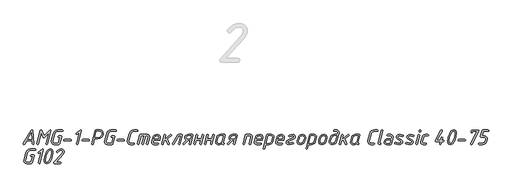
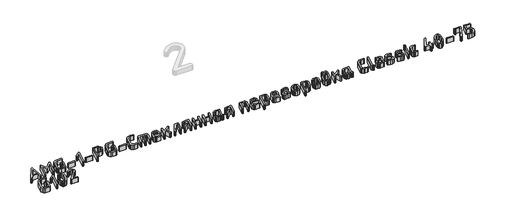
# One storey, part 15 of 22: 1 proxy.
"""IFC4 building model written with IfcOpenShell, lengths in millimetres."""

from ifc_helpers import new_model, si_unit, origin, origin_with_axes, place, context, project, spatial, polyline, outline, extrude, element, save

model = new_model("IFC4")

# Units and contexts
model_context = context("Model", 3, world=origin())
ifc_project = project(units=[si_unit("LENGTHUNIT", "METRE", prefix="MILLI")], contexts=[model_context])

# Site, building, storey
site = spatial("IfcSite", under=ifc_project)
building = spatial("IfcBuilding", under=site)
storey = spatial("IfcBuildingStorey", under=building, Name="Уровень 1", Elevation=0.0)

# Proxy
placement = place(None, origin())
element("IfcBuildingElementProxy", 1, Name="30", ObjectType="30", at=placement, inside=storey, context=model_context, shape_type="SweptSolid", body=[
    extrude(outline(polyline([(-36154.4219264, -9895.2113625), (-36210.5539274, -9895.2113625), (-36231.3287604, -9929.8494015), (-36237.7210168, -9933.5649005), (-36243.0345798, -9931.3276108), (-36245.1919664, -9926.0140477), (-36244.0733215, -9922.0188875), (-36161.4534084, -9786.2633437), (-36154.9812489, -9782.7076511), (-36149.6277342, -9784.4455458), (-36147.4703477, -9789.6592298), (-36137.0429795, -9926.2537573), (-36138.9406806, -9931.7371147), (-36144.6337839, -9933.5649005), (-36149.9573349, -9931.7970421), (-36152.0248303, -9926.493467), (-36154.4219264, -9895.2113625)]), holes=[polyline([(-36155.5405713, -9879.8699473), (-36160.6543764, -9813.3904815), (-36201.3251073, -9879.8699473), (-36155.5405713, -9879.8699473)])]), origin_with_axes(), (0.0, 0.0, 1.0), 50.0),
    extrude(outline(polyline([(-36059.3371135, -9813.3505299), (-36089.9000891, -9927.9716762), (-36092.4370158, -9932.1665945), (-36097.0913775, -9933.5649005), (-36102.3649889, -9931.3276108), (-36104.6821818, -9926.2537573), (-36104.362569, -9923.976516), (-36068.0865143, -9788.3008754), (-36065.5595755, -9784.1059572), (-36060.9351776, -9782.7076511), (-36053.9036956, -9787.2621337), (-36029.8128796, -9844.5527311), (-35973.0816046, -9785.1047472), (-35967.7680415, -9782.7076511), (-35962.1348656, -9784.5654006), (-35960.2571403, -9790.1386491), (-35960.49685, -9792.2960356), (-35996.732953, -9927.9716762), (-35999.3198193, -9932.1665945), (-36003.8842898, -9933.5649005), (-36009.1778771, -9931.3276108), (-36011.5150458, -9926.2537573), (-36011.1554814, -9923.976516), (-35982.5101827, -9816.6665129), (-36027.0961706, -9863.1701777), (-36032.4097337, -9865.4074674), (-36039.2414576, -9860.8929364), (-36059.3371135, -9813.3505299)])), origin_with_axes(), (0.0, 0.0, 1.0), 50.0),
    extrude(outline(polyline([(-35842.6795754, -9798.0490663), (-35891.3406268, -9798.0490663), (-35904.0052846, -9800.8356905), (-35914.512556, -9809.1955633), (-35920.5452479, -9820.5817699), (-35940.7607585, -9895.6907818), (-35941.5597906, -9901.2840061), (-35936.3860581, -9913.5491479), (-35923.5016664, -9918.2234853), (-35884.6287576, -9918.2234853), (-35868.4883104, -9859.4147271), (-35882.2316615, -9859.4147271), (-35887.8648374, -9857.4970502), (-35889.7425627, -9851.7440195), (-35887.8648374, -9845.9909888), (-35882.2316615, -9844.0733119), (-35856.782491, -9844.0733119), (-35852.3478631, -9845.4316663), (-35850.8696539, -9849.5067298), (-35850.9895087, -9851.5442615), (-35871.1251161, -9926.0939509), (-35874.6108934, -9931.6971631), (-35880.9931618, -9933.5649005), (-35927.5767298, -9933.5649005), (-35941.7995002, -9929.4199218), (-35952.8261424, -9916.9849857), (-35957.0210606, -9902.1229897), (-35956.2220285, -9895.8505882), (-35936.1263727, -9820.4219634), (-35926.1784238, -9799.6471304), (-35909.5186057, -9786.9425209), (-35887.2256117, -9782.7076511), (-35842.6795754, -9782.7076511), (-35837.0763632, -9784.625328), (-35835.2086258, -9790.3783587), (-35837.0763632, -9796.1313894), (-35842.6795754, -9798.0490663)])), origin_with_axes(), (0.0, 0.0, 1.0), 50.0),
    extrude(outline(polyline([(-35758.9809691, -9895.2113625), (-35821.0657587, -9895.2113625), (-35826.6689709, -9893.2936856), (-35828.5367083, -9887.5406549), (-35826.6689709, -9881.7876242), (-35821.0657587, -9879.8699473), (-35758.9809691, -9879.8699473), (-35753.3777569, -9881.7876242), (-35751.5100195, -9887.5406549), (-35753.3777569, -9893.2936856), (-35758.9809691, -9895.2113625)])), origin_with_axes(), (0.0, 0.0, 1.0), 50.0),
    extrude(outline(polyline([(-35667.0123811, -9809.7948373), (-35688.4663914, -9826.294849), (-35694.0596157, -9827.7730582), (-35699.1134934, -9824.9964219), (-35700.5317752, -9819.3432702), (-35697.5753567, -9814.3493199), (-35658.5026899, -9785.2645536), (-35654.068062, -9782.7076511), (-35648.4348861, -9784.5654006), (-35646.5571608, -9790.1386491), (-35646.7968704, -9792.2960356), (-35683.0329735, -9927.9716762), (-35685.6198398, -9932.1665945), (-35690.1843103, -9933.5649005), (-35695.4778976, -9931.3276108), (-35697.8150663, -9926.2537573), (-35697.4555019, -9923.976516), (-35667.0123811, -9809.7948373)])), origin_with_axes(), (0.0, 0.0, 1.0), 50.0),
    extrude(outline(polyline([(-35572.3270842, -9895.2113625), (-35634.4118738, -9895.2113625), (-35640.015086, -9893.2936856), (-35641.8828234, -9887.5406549), (-35640.015086, -9881.7876242), (-35634.4118738, -9879.8699473), (-35572.3270842, -9879.8699473), (-35566.723872, -9881.7876242), (-35564.8561346, -9887.5406549), (-35566.723872, -9893.2936856), (-35572.3270842, -9895.2113625)])), origin_with_axes(), (0.0, 0.0, 1.0), 50.0),
    extrude(outline(polyline([(-35481.7168507, -9874.7561423), (-35512.7592455, -9874.7561423), (-35527.3815318, -9928.091531), (-35529.978386, -9932.1965582), (-35534.5728202, -9933.5649005), (-35539.8464317, -9931.3276108), (-35542.1636246, -9926.2537573), (-35541.8440118, -9923.976516), (-35506.1672311, -9790.2585039), (-35502.7114176, -9784.5953643), (-35496.2592338, -9782.7076511), (-35457.386325, -9782.7076511), (-35440.2570756, -9787.731565), (-35427.063059, -9802.8033069), (-35422.0691088, -9821.1810439), (-35422.948044, -9828.7318967), (-35434.9834641, -9853.3620594), (-35455.3487933, -9869.162918), (-35481.7168507, -9874.7561423)]), holes=[polyline([(-35477.6417873, -9859.4147271), (-35461.1917151, -9855.5194459), (-35446.8391021, -9843.8336023), (-35439.8575596, -9832.7769964), (-35437.5303788, -9821.1810439), (-35440.4768094, -9809.3653576), (-35449.3161014, -9801.085388), (-35461.6211948, -9798.0490663), (-35492.623638, -9798.0490663), (-35508.7640853, -9859.4147271), (-35477.6417873, -9859.4147271)])]), origin_with_axes(), (0.0, 0.0, 1.0), 50.0),
    extrude(outline(polyline([(-35295.5024334, -9798.0490663), (-35344.1634847, -9798.0490663), (-35356.8281426, -9800.8356905), (-35367.3354139, -9809.1955633), (-35373.3681058, -9820.5817699), (-35393.5836165, -9895.6907818), (-35394.3826485, -9901.2840061), (-35389.2089161, -9913.5491479), (-35376.3245244, -9918.2234853), (-35337.4516156, -9918.2234853), (-35321.3111683, -9859.4147271), (-35335.0545194, -9859.4147271), (-35340.6876953, -9857.4970502), (-35342.5654206, -9851.7440195), (-35340.6876953, -9845.9909888), (-35335.0545194, -9844.0733119), (-35309.6053489, -9844.0733119), (-35305.1707211, -9845.4316663), (-35303.6925118, -9849.5067298), (-35303.8123666, -9851.5442615), (-35323.9479741, -9926.0939509), (-35327.4337513, -9931.6971631), (-35333.8160198, -9933.5649005), (-35380.3995878, -9933.5649005), (-35394.6223581, -9929.4199218), (-35405.6490003, -9916.9849857), (-35409.8439185, -9902.1229897), (-35409.0448865, -9895.8505882), (-35388.9492306, -9820.4219634), (-35379.0012817, -9799.6471304), (-35362.3414637, -9786.9425209), (-35340.0484697, -9782.7076511), (-35295.5024334, -9782.7076511), (-35289.8992212, -9784.625328), (-35288.0314838, -9790.3783587), (-35289.8992212, -9796.1313894), (-35295.5024334, -9798.0490663)])), origin_with_axes(), (0.0, 0.0, 1.0), 50.0),
    extrude(outline(polyline([(-35211.803827, -9895.2113625), (-35273.8886167, -9895.2113625), (-35279.4918289, -9893.2936856), (-35281.3595662, -9887.5406549), (-35279.4918289, -9881.7876242), (-35273.8886167, -9879.8699473), (-35211.803827, -9879.8699473), (-35206.2006148, -9881.7876242), (-35204.3328774, -9887.5406549), (-35206.2006148, -9893.2936856), (-35211.803827, -9895.2113625)])), origin_with_axes(), (0.0, 0.0, 1.0), 50.0),
    extrude(outline(polyline([(-35047.2831297, -9834.4050242), (-35044.7262271, -9830.1501786), (-35040.0119381, -9828.7318967), (-34968.0591028, -9828.7318967), (-34955.8339125, -9831.7382547), (-34947.3641729, -9840.7573289), (-34944.3278511, -9852.6629063), (-34945.1268832, -9858.6955982), (-34963.7443297, -9928.0116278), (-34966.331196, -9932.1765824), (-34970.8956665, -9933.5649005), (-34976.1892538, -9931.3675624), (-34978.5264225, -9926.3336606), (-34978.1668581, -9924.0564192), (-34960.6680564, -9858.9752595), (-34959.8690243, -9853.4619384), (-34962.915334, -9846.4204685), (-34972.054263, -9844.0733119), (-34987.5954362, -9844.0733119), (-35010.3278978, -9928.0116278), (-35012.914764, -9932.1765824), (-35017.4792345, -9933.5649005), (-35022.7728218, -9931.3675624), (-35025.1099905, -9926.3336606), (-35024.7903777, -9924.0564192), (-35003.0567062, -9844.0733119), (-35034.2189558, -9844.0733119), (-35056.9114658, -9928.0116278), (-35059.5083199, -9932.1765824), (-35064.1027542, -9933.5649005), (-35069.3763656, -9931.3475866), (-35071.6935585, -9926.293709), (-35071.3739457, -9924.0164676), (-35047.2831297, -9834.4050242)])), origin_with_axes(), (0.0, 0.0, 1.0), 50.0),
    extrude(outline(polyline([(-35112.004725, -9918.2234853), (-35106.3715492, -9920.1411622), (-35104.4938239, -9925.8941929), (-35106.3715492, -9931.6472236), (-35112.004725, -9933.5649005), (-35145.0447, -9933.5649005), (-35159.397313, -9929.3899581), (-35170.4139673, -9916.8651309), (-35174.4890307, -9901.9232317), (-35173.6899987, -9895.8505882), (-35153.7141976, -9820.4219634), (-35146.8924616, -9803.9219518), (-35136.4551055, -9792.1362292), (-35122.4021295, -9785.0647956), (-35104.7335335, -9782.7076511), (-35075.8485252, -9782.7076511), (-35070.2153493, -9784.625328), (-35068.337624, -9790.3783587), (-35070.2153493, -9796.1313894), (-35075.8485252, -9798.0490663), (-35108.8085969, -9798.0490663), (-35121.3533999, -9800.8356905), (-35131.9805261, -9809.1955633), (-35138.1330728, -9820.5817699), (-35158.2287286, -9895.6907818), (-35159.0277607, -9901.2840061), (-35153.8540282, -9913.5491479), (-35140.9696366, -9918.2234853), (-35112.004725, -9918.2234853)])), origin_with_axes(), (0.0, 0.0, 1.0), 50.0),
    extrude(outline(polyline([(-34837.5372188, -9865.4873706), (-34843.5699107, -9887.5406549), (-34905.6147487, -9887.5406549), (-34909.6099089, -9902.8820701), (-34910.408941, -9908.4752944), (-34907.3626313, -9915.7864376), (-34898.2237023, -9918.2234853), (-34861.4282768, -9918.2234853), (-34855.7951009, -9920.1411622), (-34853.9173756, -9925.8941929), (-34855.7951009, -9931.6472236), (-34861.4282768, -9933.5649005), (-34902.2188625, -9933.5649005), (-34911.2778883, -9931.80703), (-34918.9585838, -9926.5334186), (-34924.2022316, -9918.8227594), (-34925.9501142, -9909.7537457), (-34925.1510821, -9903.601199), (-34915.1631816, -9866.1665478), (-34908.3064879, -9848.9274315), (-34898.4434361, -9837.4013943), (-34884.6950911, -9830.8992711), (-34866.1825175, -9828.7318967), (-34854.6614742, -9830.804386), (-34845.1080474, -9837.0218541), (-34838.6808334, -9846.2756439), (-34836.5384287, -9857.4570986), (-34837.5372188, -9865.4873706)]), holes=[polyline([(-34853.1183436, -9865.1677578), (-34851.8798439, -9857.3771954), (-34856.4742782, -9847.3992827), (-34870.2575809, -9844.0733119), (-34889.1946403, -9849.3469234), (-34895.4570539, -9855.9389377), (-34899.5820568, -9865.1677578), (-34901.6595401, -9872.1992397), (-34855.0360205, -9872.1992397), (-34853.1183436, -9865.1677578)])]), origin_with_axes(), (0.0, 0.0, 1.0), 50.0),
    extrude(outline(polyline([(-34778.9681701, -9885.2634136), (-34799.063826, -9900.7246836), (-34806.3350176, -9928.0116278), (-34808.8719443, -9932.1765824), (-34813.5263059, -9933.5649005), (-34818.7999174, -9931.3475866), (-34821.1171103, -9926.293709), (-34820.7974975, -9924.0164676), (-34796.7066815, -9834.2851694), (-34794.1797426, -9830.1202149), (-34789.5553447, -9828.7318967), (-34783.9221688, -9830.5796583), (-34782.0444435, -9836.1229431), (-34782.2442015, -9838.2803296), (-34792.5916664, -9876.9534804), (-34731.9051829, -9831.2887992), (-34727.3906519, -9828.7318967), (-34722.1370162, -9831.009138), (-34719.7598959, -9836.1229431), (-34722.8361692, -9842.2355382), (-34766.8228831, -9875.9147387), (-34744.6497439, -9922.777968), (-34743.8507119, -9925.9740961), (-34746.1279532, -9931.2876592), (-34751.4814679, -9933.5649005), (-34758.1533854, -9929.2501275), (-34778.9681701, -9885.2634136)])), origin_with_axes(), (0.0, 0.0, 1.0), 50.0),
    extrude(outline(polyline([(-34617.2041333, -9828.7318967), (-34611.5709574, -9830.5796583), (-34609.6932321, -9836.1229431), (-34609.9329417, -9838.2803296), (-34634.1436126, -9928.0116278), (-34636.7304788, -9932.1765824), (-34641.2949494, -9933.5649005), (-34646.5885367, -9931.3675624), (-34648.9257054, -9926.3336606), (-34648.566141, -9924.0564192), (-34626.9922758, -9844.0733119), (-34644.0116583, -9844.0733119), (-34697.1073375, -9930.0491595), (-34702.980223, -9933.5649005), (-34708.9130359, -9931.7770663), (-34710.9705434, -9926.4135638), (-34709.8119469, -9922.2186455), (-34654.7186877, -9832.3674925), (-34648.2065765, -9828.7318967), (-34617.2041333, -9828.7318967)])), origin_with_axes(), (0.0, 0.0, 1.0), 50.0),
    extrude(outline(polyline([(-34547.3687329, -9887.5406549), (-34588.2791734, -9931.2477076), (-34593.6326881, -9933.5649005), (-34599.2259124, -9931.707151), (-34601.2234925, -9926.1339025), (-34599.066106, -9920.5406783), (-34567.2646307, -9886.5019133), (-34579.4698452, -9878.0321736), (-34584.0842552, -9864.1290161), (-34583.405078, -9858.1362758), (-34577.8617932, -9844.4977976), (-34570.1011945, -9835.4637416), (-34559.2143829, -9830.4148579), (-34544.2924595, -9828.7318967), (-34507.497034, -9828.7318967), (-34502.2034467, -9830.8892832), (-34499.866278, -9836.0030883), (-34500.2258424, -9838.2803296), (-34524.3965617, -9928.0116278), (-34526.9934158, -9932.1765824), (-34531.5878501, -9933.5649005), (-34537.1910623, -9931.6771873), (-34539.0587997, -9926.0140477), (-34538.8590416, -9923.8167096), (-34529.3106088, -9887.5406549), (-34547.3687329, -9887.5406549)]), holes=[polyline([(-34556.3578434, -9872.1992397), (-34525.3154485, -9872.1992397), (-34517.1253701, -9844.0733119), (-34548.2876197, -9844.0733119), (-34560.7824833, -9847.5890529), (-34568.0636628, -9858.1362758), (-34568.74284, -9863.2500809), (-34565.6465908, -9869.96195), (-34556.3578434, -9872.1992397)])]), origin_with_axes(), (0.0, 0.0, 1.0), 50.0),
    extrude(outline(polyline([(-34419.3637998, -9887.5406549), (-34465.9473679, -9887.5406549), (-34476.4945908, -9927.8518214), (-34479.0614812, -9932.1366308), (-34483.805734, -9933.5649005), (-34489.0593697, -9931.3475866), (-34491.3965384, -9926.293709), (-34491.0769256, -9924.0164676), (-34466.9861095, -9834.2851694), (-34464.4491828, -9830.1202149), (-34459.7948211, -9828.7318967), (-34454.4812581, -9830.80938), (-34452.2040167, -9835.8832335), (-34452.4037748, -9837.9607168), (-34461.9522077, -9872.1992397), (-34415.2487848, -9872.1992397), (-34404.7015619, -9834.125363), (-34402.174623, -9830.0802632), (-34397.5502251, -9828.7318967), (-34391.9170492, -9830.5796583), (-34390.0393239, -9836.1229431), (-34390.2790335, -9838.2803296), (-34414.3698496, -9928.0116278), (-34416.8967884, -9932.1765824), (-34421.5211863, -9933.5649005), (-34426.7947978, -9931.307635), (-34429.1119907, -9926.1339025), (-34428.7923779, -9923.8167096), (-34419.3637998, -9887.5406549)])), origin_with_axes(), (0.0, 0.0, 1.0), 50.0),
    extrude(outline(polyline([(-34309.4169909, -9887.5406549), (-34356.0005589, -9887.5406549), (-34366.5477819, -9927.8518214), (-34369.1146723, -9932.1366308), (-34373.8589251, -9933.5649005), (-34379.1125607, -9931.3475866), (-34381.4497295, -9926.293709), (-34381.1301167, -9924.0164676), (-34357.0393006, -9834.2851694), (-34354.5023739, -9830.1202149), (-34349.8480122, -9828.7318967), (-34344.5344491, -9830.80938), (-34342.2572078, -9835.8832335), (-34342.4569658, -9837.9607168), (-34352.0053987, -9872.1992397), (-34305.3019759, -9872.1992397), (-34294.754753, -9834.125363), (-34292.2278141, -9830.0802632), (-34287.6034162, -9828.7318967), (-34281.9702403, -9830.5796583), (-34280.092515, -9836.1229431), (-34280.3322246, -9838.2803296), (-34304.4230407, -9928.0116278), (-34306.9499795, -9932.1765824), (-34311.5743774, -9933.5649005), (-34316.8479889, -9931.307635), (-34319.1651818, -9926.1339025), (-34318.845569, -9923.8167096), (-34309.4169909, -9887.5406549)])), origin_with_axes(), (0.0, 0.0, 1.0), 50.0),
    extrude(outline(polyline([(-34242.538009, -9933.5649005), (-34251.5970348, -9931.8369937), (-34259.2777303, -9926.6532734), (-34264.5213781, -9919.0225174), (-34266.2692607, -9909.9535037), (-34265.4702286, -9903.601199), (-34253.4447964, -9858.6955982), (-34247.8815358, -9844.7924407), (-34239.8213001, -9835.523669), (-34228.9544643, -9830.4298398), (-34214.332178, -9828.7318967), (-34175.4992208, -9828.7318967), (-34170.6051495, -9830.8693074), (-34169.6662869, -9836.2028463), (-34189.9217491, -9910.7525357), (-34190.2413619, -9912.7900674), (-34188.7431768, -9916.8651309), (-34184.2486216, -9918.2234853), (-34179.0449254, -9920.1411622), (-34178.4556393, -9925.8941929), (-34181.7915981, -9931.6472236), (-34188.2038302, -9933.5649005), (-34198.261646, -9931.3875382), (-34203.6651002, -9924.8554513), (-34212.8140171, -9931.3875382), (-34227.076739, -9933.5649005), (-34242.538009, -9933.5649005)]), holes=[polyline([(-34238.5428488, -9918.2234853), (-34223.0016756, -9918.2234853), (-34210.9962192, -9913.6690027), (-34203.3055358, -9903.401441), (-34187.2849434, -9844.0733119), (-34218.3273382, -9844.0733119), (-34231.0718992, -9847.778823), (-34237.9835264, -9858.8953562), (-34249.9290554, -9903.401441), (-34250.7280875, -9908.6750524), (-34247.6817778, -9915.8363771), (-34238.5428488, -9918.2234853)])]), origin_with_axes(), (0.0, 0.0, 1.0), 50.0),
    extrude(outline(polyline([(-34092.240082, -9887.5406549), (-34133.1505226, -9931.2477076), (-34138.5040372, -9933.5649005), (-34144.0972615, -9931.707151), (-34146.0948416, -9926.1339025), (-34143.9374551, -9920.5406783), (-34112.1359799, -9886.5019133), (-34124.3411943, -9878.0321736), (-34128.9556043, -9864.1290161), (-34128.2764271, -9858.1362758), (-34122.7331423, -9844.4977976), (-34114.9725436, -9835.4637416), (-34104.085732, -9830.4148579), (-34089.1638087, -9828.7318967), (-34052.3683832, -9828.7318967), (-34047.0747959, -9830.8892832), (-34044.7376272, -9836.0030883), (-34045.0971916, -9838.2803296), (-34069.2679108, -9928.0116278), (-34071.864765, -9932.1765824), (-34076.4591992, -9933.5649005), (-34082.0624114, -9931.6771873), (-34083.9301488, -9926.0140477), (-34083.7303908, -9923.8167096), (-34074.1819579, -9887.5406549), (-34092.240082, -9887.5406549)]), holes=[polyline([(-34101.2291925, -9872.1992397), (-34070.1867977, -9872.1992397), (-34061.9967193, -9844.0733119), (-34093.1589689, -9844.0733119), (-34105.6538324, -9847.5890529), (-34112.9350119, -9858.1362758), (-34113.6141891, -9863.2500809), (-34110.51794, -9869.96195), (-34101.2291925, -9872.1992397)])]), origin_with_axes(), (0.0, 0.0, 1.0), 50.0),
    extrude(outline(polyline([(-33960.5995532, -9834.4050242), (-33958.0426507, -9830.1501786), (-33953.3283616, -9828.7318967), (-33912.4179211, -9828.7318967), (-33903.0542643, -9830.4198519), (-33895.4185144, -9835.4837174), (-33890.339667, -9843.1244613), (-33888.6467178, -9852.5430515), (-33889.4457499, -9858.6955982), (-33908.1031481, -9928.0116278), (-33910.6700385, -9932.1765824), (-33915.2544848, -9933.5649005), (-33920.5280963, -9931.3675624), (-33922.8452892, -9926.3336606), (-33922.5256764, -9924.0564192), (-33905.0268747, -9858.9752595), (-33904.2278427, -9853.5817932), (-33907.2641644, -9846.4504322), (-33916.3731297, -9844.0733119), (-33947.5353793, -9844.0733119), (-33970.2278893, -9928.0116278), (-33972.8247434, -9932.1765824), (-33977.4191777, -9933.5649005), (-33982.6927891, -9931.3475866), (-33985.0099821, -9926.293709), (-33984.6903692, -9924.0164676), (-33960.5995532, -9834.4050242)])), origin_with_axes(), (0.0, 0.0, 1.0), 50.0),
    extrude(outline(polyline([(-33781.5364727, -9865.4873706), (-33787.5691646, -9887.5406549), (-33849.6140026, -9887.5406549), (-33853.6091628, -9902.8820701), (-33854.4081949, -9908.4752944), (-33851.3618852, -9915.7864376), (-33842.2229562, -9918.2234853), (-33805.4275307, -9918.2234853), (-33799.7943548, -9920.1411622), (-33797.9166295, -9925.8941929), (-33799.7943548, -9931.6472236), (-33805.4275307, -9933.5649005), (-33846.2181164, -9933.5649005), (-33855.2771422, -9931.80703), (-33862.9578377, -9926.5334186), (-33868.2014855, -9918.8227594), (-33869.9493681, -9909.7537457), (-33869.150336, -9903.601199), (-33859.1624355, -9866.1665478), (-33852.3057418, -9848.9274315), (-33842.44269, -9837.4013943), (-33828.694345, -9830.8992711), (-33810.1817714, -9828.7318967), (-33798.6607281, -9830.804386), (-33789.1073013, -9837.0218541), (-33782.6800873, -9846.2756439), (-33780.5376826, -9857.4570986), (-33781.5364727, -9865.4873706)]), holes=[polyline([(-33797.1175975, -9865.1677578), (-33795.8790978, -9857.3771954), (-33800.4735321, -9847.3992827), (-33814.2568348, -9844.0733119), (-33833.1938942, -9849.3469234), (-33839.4563078, -9855.9389377), (-33843.5813107, -9865.1677578), (-33845.658794, -9872.1992397), (-33799.0352744, -9872.1992397), (-33797.1175975, -9865.1677578)])]), origin_with_axes(), (0.0, 0.0, 1.0), 50.0),
    extrude(outline(polyline([(-33740.7059354, -9834.4449758), (-33738.1490328, -9830.1601665), (-33733.4347438, -9828.7318967), (-33692.5243033, -9828.7318967), (-33683.3604045, -9830.4747853), (-33675.684703, -9835.7034512), (-33670.4860008, -9843.3991286), (-33668.7531, -9852.5430515), (-33669.5521321, -9858.6955982), (-33681.6175159, -9903.601199), (-33687.1657946, -9917.4344412), (-33695.1810848, -9926.6532734), (-33706.2127209, -9931.8369937), (-33720.8100375, -9933.5649005), (-33751.8124807, -9933.5649005), (-33762.3996553, -9973.876067), (-33764.9265941, -9978.1608763), (-33769.5509921, -9979.5891461), (-33774.8445793, -9977.3518564), (-33777.1817481, -9972.2780029), (-33776.8221836, -9970.0007616), (-33740.7059354, -9834.4449758)]), holes=[polyline([(-33727.6417615, -9844.0733119), (-33747.8572721, -9918.2234853), (-33716.7349741, -9918.2234853), (-33703.9604493, -9914.5179742), (-33697.0388343, -9903.401441), (-33685.1332569, -9858.8953562), (-33684.3342248, -9853.50189), (-33687.3705466, -9846.4304564), (-33696.4795119, -9844.0733119), (-33727.6417615, -9844.0733119)])]), origin_with_axes(), (0.0, 0.0, 1.0), 50.0),
    extrude(outline(polyline([(-33561.6428548, -9865.4873706), (-33567.6755468, -9887.5406549), (-33629.7203848, -9887.5406549), (-33633.715545, -9902.8820701), (-33634.514577, -9908.4752944), (-33631.4682674, -9915.7864376), (-33622.3293384, -9918.2234853), (-33585.5339129, -9918.2234853), (-33579.900737, -9920.1411622), (-33578.0230117, -9925.8941929), (-33579.900737, -9931.6472236), (-33585.5339129, -9933.5649005), (-33626.3244986, -9933.5649005), (-33635.3835244, -9931.80703), (-33643.0642199, -9926.5334186), (-33648.3078677, -9918.8227594), (-33650.0557502, -9909.7537457), (-33649.2567182, -9903.601199), (-33639.2688177, -9866.1665478), (-33632.412124, -9848.9274315), (-33622.5490722, -9837.4013943), (-33608.8007272, -9830.8992711), (-33590.2881535, -9828.7318967), (-33578.7671103, -9830.804386), (-33569.2136834, -9837.0218541), (-33562.7864695, -9846.2756439), (-33560.6440648, -9857.4570986), (-33561.6428548, -9865.4873706)]), holes=[polyline([(-33577.2239797, -9865.1677578), (-33575.98548, -9857.3771954), (-33580.5799142, -9847.3992827), (-33594.363217, -9844.0733119), (-33613.3002763, -9849.3469234), (-33619.56269, -9855.9389377), (-33623.6876929, -9865.1677578), (-33625.7651762, -9872.1992397), (-33579.1416566, -9872.1992397), (-33577.2239797, -9865.1677578)])]), origin_with_axes(), (0.0, 0.0, 1.0), 50.0),
    extrude(outline(polyline([(-33489.0907455, -9930.6484336), (-33520.2130435, -9933.5649005), (-33528.1434365, -9931.9668364), (-33534.8353299, -9927.1726442), (-33539.3898125, -9920.261017), (-33540.9079734, -9912.3106482), (-33539.2100303, -9903.1517434), (-33534.116201, -9894.3723789), (-33518.5350762, -9882.7065111), (-33473.1900079, -9864.9679998), (-33465.9387921, -9859.7742915), (-33463.5217201, -9851.6241647), (-33465.8289252, -9845.9610251), (-33472.7505402, -9844.0733119), (-33490.6588459, -9845.6913518), (-33504.1924511, -9850.5454714), (-33507.8280469, -9851.5842131), (-33513.1216341, -9849.3069717), (-33515.338948, -9844.0733119), (-33511.5834974, -9837.4413459), (-33493.5453491, -9830.909259), (-33468.75538, -9828.7318967), (-33458.6476247, -9831.4985451), (-33451.0168687, -9839.7984905), (-33448.0604501, -9850.3057618), (-33450.5074858, -9860.823021), (-33457.8485927, -9871.1205465), (-33470.2335893, -9879.3505765), (-33515.5786577, -9896.969233), (-33522.8898008, -9902.2528324), (-33525.3268486, -9910.4329229), (-33523.0595951, -9916.2758447), (-33516.2578349, -9918.2234853), (-33494.663994, -9916.4855906), (-33475.1076848, -9911.2719066), (-33472.3909758, -9910.7125841), (-33466.7577999, -9912.5903094), (-33464.8800746, -9918.2234853), (-33467.3271102, -9923.477121), (-33474.6682171, -9927.4123538), (-33489.0907455, -9930.6484336)])), origin_with_axes(), (0.0, 0.0, 1.0), 50.0),
    extrude(outline(polyline([(-33427.3255687, -9896.1302494), (-33419.3751999, -9866.1665478), (-33412.5185061, -9848.9274315), (-33402.6554544, -9837.4013943), (-33388.9071093, -9830.8992711), (-33370.3945357, -9828.7318967), (-33358.8734925, -9830.8443376), (-33349.3200656, -9837.1816605), (-33342.8928516, -9846.6152326), (-33340.750447, -9858.016421), (-33341.749237, -9866.1665478), (-33349.6996058, -9896.1302494), (-33359.6076031, -9917.6641629), (-33375.2286796, -9929.5897161), (-33398.68027, -9933.5649005), (-33410.2063072, -9931.4524596), (-33419.7747159, -9925.1151367), (-33426.2169117, -9915.6815646), (-33428.3643103, -9904.2803762), (-33427.3255687, -9896.1302494)]), holes=[polyline([(-33365.2807306, -9895.970443), (-33357.3303618, -9866.3263542), (-33356.0918622, -9858.016421), (-33360.6862964, -9847.5590892), (-33374.4695991, -9844.0733119), (-33385.0517797, -9845.464127), (-33393.4665859, -9849.6365725), (-33399.7140177, -9856.5906482), (-33403.794075, -9866.3263542), (-33411.8642987, -9895.970443), (-33413.1427499, -9904.2803762), (-33408.5383278, -9914.737708), (-33394.7250614, -9918.2234853), (-33384.1054261, -9916.8326702), (-33375.6581593, -9912.6602247), (-33369.3832608, -9905.706149), (-33365.2807306, -9895.970443)])]), origin_with_axes(), (0.0, 0.0, 1.0), 50.0),
    extrude(outline(polyline([(-33300.9186997, -9834.4449758), (-33298.3617972, -9830.1601665), (-33293.6475081, -9828.7318967), (-33252.7370676, -9828.7318967), (-33243.5731689, -9830.4747853), (-33235.8974673, -9835.7034512), (-33230.6987651, -9843.3991286), (-33228.9658644, -9852.5430515), (-33229.7648964, -9858.6955982), (-33241.8302802, -9903.601199), (-33247.378559, -9917.4344412), (-33255.3938491, -9926.6532734), (-33266.4254853, -9931.8369937), (-33281.0228019, -9933.5649005), (-33312.0252451, -9933.5649005), (-33322.6124196, -9973.876067), (-33325.1393585, -9978.1608763), (-33329.7637564, -9979.5891461), (-33335.0573437, -9977.3518564), (-33337.3945124, -9972.2780029), (-33337.034948, -9970.0007616), (-33300.9186997, -9834.4449758)]), holes=[polyline([(-33287.8545258, -9844.0733119), (-33308.0700365, -9918.2234853), (-33276.9477384, -9918.2234853), (-33264.1732137, -9914.5179742), (-33257.2515986, -9903.401441), (-33245.3460212, -9858.8953562), (-33244.5469892, -9853.50189), (-33247.5833109, -9846.4304564), (-33256.6922762, -9844.0733119), (-33287.8545258, -9844.0733119)])]), origin_with_axes(), (0.0, 0.0, 1.0), 50.0),
    extrude(outline(polyline([(-33207.4319508, -9896.1302494), (-33199.481582, -9866.1665478), (-33192.6248883, -9848.9274315), (-33182.7618366, -9837.4013943), (-33169.0134915, -9830.8992711), (-33150.5009179, -9828.7318967), (-33138.9798746, -9830.8443376), (-33129.4264478, -9837.1816605), (-33122.9992338, -9846.6152326), (-33120.8568291, -9858.016421), (-33121.8556192, -9866.1665478), (-33129.805988, -9896.1302494), (-33139.7139853, -9917.6641629), (-33155.3350617, -9929.5897161), (-33178.7866521, -9933.5649005), (-33190.3126893, -9931.4524596), (-33199.881098, -9925.1151367), (-33206.3232939, -9915.6815646), (-33208.4706925, -9904.2803762), (-33207.4319508, -9896.1302494)]), holes=[polyline([(-33145.3871128, -9895.970443), (-33137.436744, -9866.3263542), (-33136.1982443, -9858.016421), (-33140.7926786, -9847.5590892), (-33154.5759813, -9844.0733119), (-33165.1581619, -9845.464127), (-33173.5729681, -9849.6365725), (-33179.8203999, -9856.5906482), (-33183.9004572, -9866.3263542), (-33191.9706808, -9895.970443), (-33193.2491321, -9904.2803762), (-33188.64471, -9914.737708), (-33174.8314435, -9918.2234853), (-33164.2118083, -9916.8326702), (-33155.7645414, -9912.6602247), (-33149.4896429, -9905.706149), (-33145.3871128, -9895.970443)])]), origin_with_axes(), (0.0, 0.0, 1.0), 50.0),
    extrude(outline(polyline([(-32997.8458463, -9812.8711107), (-33019.8591791, -9895.8505882), (-33026.8457155, -9913.2744806), (-33036.8585858, -9924.8754271), (-33050.6169187, -9931.3925322), (-33068.8398432, -9933.5649005), (-33080.3658804, -9931.4524596), (-33089.9342891, -9925.1151367), (-33096.376485, -9915.6815646), (-33098.5238836, -9904.2803762), (-33097.4851419, -9896.1302494), (-33089.5347731, -9866.1665478), (-33082.6780794, -9848.9274315), (-33072.8150276, -9837.4013943), (-33059.0666826, -9830.8992711), (-33040.554109, -9828.7318967), (-33017.2623249, -9828.7318967), (-33013.2671647, -9813.3904815), (-33012.5080843, -9807.7972572), (-33015.5743698, -9800.486114), (-33024.7732261, -9798.0490663), (-33046.0274784, -9798.0490663), (-33051.6306906, -9796.1313894), (-33053.498428, -9790.3783587), (-33051.6306906, -9784.625328), (-33046.0274784, -9782.7076511), (-33020.7780659, -9782.7076511), (-33011.6441309, -9784.4655216), (-33003.9784173, -9789.7391331), (-32998.779715, -9797.4997318), (-32997.0468143, -9806.7185639), (-32997.8458463, -9812.8711107)]), holes=[polyline([(-33035.4403039, -9895.970443), (-33021.3373884, -9844.0733119), (-33044.6291724, -9844.0733119), (-33055.211353, -9845.464127), (-33063.6261592, -9849.6365725), (-33069.8735909, -9856.5906482), (-33073.9536483, -9866.3263542), (-33082.0238719, -9895.970443), (-33083.3023232, -9904.2803762), (-33078.697901, -9914.737708), (-33064.8846346, -9918.2234853), (-33054.2649994, -9916.8326702), (-33045.8177325, -9912.6602247), (-33039.542834, -9905.706149), (-33035.4403039, -9895.970443)])]), origin_with_axes(), (0.0, 0.0, 1.0), 50.0),
    extrude(outline(polyline([(-32953.3397616, -9885.2634136), (-32973.4354175, -9900.7246836), (-32980.706609, -9928.0116278), (-32983.2435358, -9932.1765824), (-32987.8978974, -9933.5649005), (-32993.1715089, -9931.3475866), (-32995.4887018, -9926.293709), (-32995.169089, -9924.0164676), (-32971.0782729, -9834.2851694), (-32968.5513341, -9830.1202149), (-32963.9269362, -9828.7318967), (-32958.2937603, -9830.5796583), (-32956.416035, -9836.1229431), (-32956.615793, -9838.2803296), (-32966.9632579, -9876.9534804), (-32906.2767744, -9831.2887992), (-32901.7622433, -9828.7318967), (-32896.5086077, -9831.009138), (-32894.1314873, -9836.1229431), (-32897.2077607, -9842.2355382), (-32941.1944746, -9875.9147387), (-32919.0213354, -9922.777968), (-32918.2223034, -9925.9740961), (-32920.4995447, -9931.2876592), (-32925.8530594, -9933.5649005), (-32932.5249769, -9929.2501275), (-32953.3397616, -9885.2634136)])), origin_with_axes(), (0.0, 0.0, 1.0), 50.0),
    extrude(outline(polyline([(-32856.6968362, -9933.5649005), (-32865.755862, -9931.8369937), (-32873.4365575, -9926.6532734), (-32878.6802052, -9919.0225174), (-32880.4280878, -9909.9535037), (-32879.6290558, -9903.601199), (-32867.6036236, -9858.6955982), (-32862.040363, -9844.7924407), (-32853.9801273, -9835.523669), (-32843.1132915, -9830.4298398), (-32828.4910051, -9828.7318967), (-32789.6580479, -9828.7318967), (-32784.7639767, -9830.8693074), (-32783.825114, -9836.2028463), (-32804.0805763, -9910.7525357), (-32804.4001891, -9912.7900674), (-32802.902004, -9916.8651309), (-32798.4074488, -9918.2234853), (-32793.2037526, -9920.1411622), (-32792.6144665, -9925.8941929), (-32795.9504252, -9931.6472236), (-32802.3626574, -9933.5649005), (-32812.4204732, -9931.3875382), (-32817.8239274, -9924.8554513), (-32826.9728443, -9931.3875382), (-32841.2355662, -9933.5649005), (-32856.6968362, -9933.5649005)]), holes=[polyline([(-32852.701676, -9918.2234853), (-32837.1605028, -9918.2234853), (-32825.1550464, -9913.6690027), (-32817.464363, -9903.401441), (-32801.4437705, -9844.0733119), (-32832.4861653, -9844.0733119), (-32845.2307264, -9847.778823), (-32852.1423536, -9858.8953562), (-32864.0878826, -9903.401441), (-32864.8869146, -9908.6750524), (-32861.840605, -9915.8363771), (-32852.701676, -9918.2234853)])]), origin_with_axes(), (0.0, 0.0, 1.0), 50.0),
    extrude(outline(polyline([(-32639.4799757, -9918.2234853), (-32633.8467998, -9920.1411622), (-32631.9690745, -9925.8941929), (-32633.8467998, -9931.6472236), (-32639.4799757, -9933.5649005), (-32672.5199506, -9933.5649005), (-32683.3917803, -9931.0629314), (-32692.9951467, -9923.5570242), (-32699.7219977, -9913.1446379), (-32701.9642814, -9901.9232317), (-32701.1652493, -9895.8505882), (-32681.1894483, -9820.4219634), (-32674.3677122, -9803.9219518), (-32663.9303562, -9792.1362292), (-32649.8773802, -9785.0647956), (-32632.2087841, -9782.7076511), (-32603.3237758, -9782.7076511), (-32597.6905999, -9784.625328), (-32595.8128746, -9790.3783587), (-32597.6905999, -9796.1313894), (-32603.3237758, -9798.0490663), (-32636.2838475, -9798.0490663), (-32645.7523772, -9799.687082), (-32654.5816813, -9804.601129), (-32661.5931875, -9811.8723206), (-32665.6083235, -9820.5817699), (-32685.7039793, -9895.6907818), (-32686.5030114, -9901.2840061), (-32681.3292789, -9913.5491479), (-32668.4448872, -9918.2234853), (-32639.4799757, -9918.2234853)])), origin_with_axes(), (0.0, 0.0, 1.0), 50.0),
    extrude(outline(polyline([(-32576.1167348, -9918.4631949), (-32570.4835589, -9920.3509081), (-32568.6058336, -9926.0140477), (-32570.4835589, -9931.6771873), (-32576.1167348, -9933.5649005), (-32590.1397471, -9928.3711923), (-32594.6043387, -9922.5582342), (-32596.0925359, -9915.5067764), (-32595.4133586, -9910.9522938), (-32562.6929965, -9788.3008754), (-32560.136094, -9784.1059572), (-32555.4218049, -9782.7076511), (-32549.788629, -9784.5654006), (-32547.9109038, -9790.1386491), (-32548.1506134, -9792.2960356), (-32579.8721854, -9910.9522938), (-32580.4315078, -9914.3481799), (-32576.1167348, -9918.4631949)])), origin_with_axes(), (0.0, 0.0, 1.0), 50.0),
    extrude(outline(polyline([(-32468.167506, -9933.5649005), (-32508.9580917, -9933.5649005), (-32518.0021356, -9931.7620845), (-32525.6378856, -9926.3536364), (-32530.8365878, -9918.4482131), (-32532.5694886, -9909.1544717), (-32529.7329248, -9893.353613), (-32521.2232336, -9881.507963), (-32508.7882974, -9874.5264206), (-32492.8176445, -9872.1992397), (-32461.6553949, -9872.1992397), (-32457.7001863, -9858.1362758), (-32456.9011542, -9853.0224707), (-32459.9674397, -9846.3106016), (-32469.1662961, -9844.0733119), (-32498.3709172, -9844.0733119), (-32504.0040931, -9842.155635), (-32505.8818184, -9836.4026043), (-32504.0040931, -9830.6495736), (-32498.3709172, -9828.7318967), (-32465.0912326, -9828.7318967), (-32455.8923763, -9830.4598035), (-32448.2716082, -9835.6435238), (-32443.1478152, -9843.3242193), (-32441.4398842, -9852.5430515), (-32442.2389163, -9858.6955982), (-32460.8963144, -9927.891773), (-32463.4931686, -9932.1466187), (-32468.167506, -9933.5649005)]), holes=[polyline([(-32465.7704099, -9887.5406549), (-32496.7728531, -9887.5406549), (-32505.012871, -9888.9938945), (-32511.5149943, -9893.353613), (-32515.7398762, -9900.0405124), (-32517.1481702, -9908.4752944), (-32514.0718968, -9915.7864376), (-32504.8430767, -9918.2234853), (-32473.8406335, -9918.2234853), (-32465.7704099, -9887.5406549)])]), origin_with_axes(), (0.0, 0.0, 1.0), 50.0),
    extrude(outline(polyline([(-32348.4325546, -9849.986149), (-32361.446789, -9845.5515212), (-32378.6759174, -9844.0733119), (-32389.3429951, -9848.3081817), (-32393.7776229, -9858.6556466), (-32389.7025595, -9866.446209), (-32357.7412779, -9883.3856883), (-32347.8532564, -9891.5058514), (-32344.5572492, -9901.8033769), (-32348.7122158, -9917.2946106), (-32361.1771156, -9928.9305147), (-32379.5548526, -9933.5649005), (-32400.099964, -9931.3875382), (-32422.183212, -9924.8554513), (-32425.8188078, -9918.2234853), (-32423.6614213, -9912.9298981), (-32418.3079066, -9910.7125841), (-32414.9120204, -9911.5116162), (-32397.6329525, -9916.545518), (-32375.599644, -9918.2234853), (-32365.0923726, -9913.7089543), (-32360.3780836, -9903.401441), (-32362.1059904, -9898.577285), (-32367.2897108, -9894.4922337), (-32396.2945739, -9879.1108669), (-32406.1526317, -9870.5911878), (-32409.438651, -9859.0152111), (-32405.2936722, -9844.1032756), (-32392.8587361, -9833.0067181), (-32374.6807571, -9828.7318967), (-32355.9933953, -9831.0890412), (-32339.0039765, -9838.1604748), (-32336.2872675, -9844.0733119), (-32338.5045815, -9849.3668992), (-32343.7582171, -9851.5842131), (-32348.4325546, -9849.986149)])), origin_with_axes(), (0.0, 0.0, 1.0), 50.0),
    extrude(outline(polyline([(-32238.4857457, -9849.986149), (-32251.49998, -9845.5515212), (-32268.7291084, -9844.0733119), (-32279.3961862, -9848.3081817), (-32283.830814, -9858.6556466), (-32279.7557506, -9866.446209), (-32247.7944689, -9883.3856883), (-32237.9064474, -9891.5058514), (-32234.6104403, -9901.8033769), (-32238.7654069, -9917.2946106), (-32251.2303067, -9928.9305147), (-32269.6080437, -9933.5649005), (-32290.1531551, -9931.3875382), (-32312.2364031, -9924.8554513), (-32315.8719989, -9918.2234853), (-32313.7146124, -9912.9298981), (-32308.3610977, -9910.7125841), (-32304.9652115, -9911.5116162), (-32287.6861436, -9916.545518), (-32265.6528351, -9918.2234853), (-32255.1455637, -9913.7089543), (-32250.4312747, -9903.401441), (-32252.1591815, -9898.577285), (-32257.3429018, -9894.4922337), (-32286.347765, -9879.1108669), (-32296.2058228, -9870.5911878), (-32299.491842, -9859.0152111), (-32295.3468633, -9844.1032756), (-32282.9119272, -9833.0067181), (-32264.7339482, -9828.7318967), (-32246.0465864, -9831.0890412), (-32229.0571676, -9838.1604748), (-32226.3404586, -9844.0733119), (-32228.5577725, -9849.3668992), (-32233.8114082, -9851.5842131), (-32238.4857457, -9849.986149)])), origin_with_axes(), (0.0, 0.0, 1.0), 50.0),
    extrude(outline(polyline([(-32107.7241521, -9933.5649005), (-32133.0934194, -9933.5649005), (-32142.1524452, -9931.80703), (-32149.8331407, -9926.5334186), (-32155.0767884, -9918.8227594), (-32156.824671, -9909.7537457), (-32156.025639, -9903.601199), (-32144.0002068, -9858.6955982), (-32136.1497169, -9841.4664698), (-32123.7846961, -9831.80817), (-32104.8875883, -9828.7318967), (-32083.5534328, -9828.7318967), (-32077.9202569, -9830.6495736), (-32076.0425316, -9836.4026043), (-32077.9202569, -9842.155635), (-32083.5534328, -9844.0733119), (-32108.8827485, -9844.0733119), (-32121.6273096, -9847.778823), (-32128.5389367, -9858.8953562), (-32140.4844658, -9903.401441), (-32141.363401, -9908.11573), (-32138.2971156, -9915.6965465), (-32129.0982592, -9918.2234853), (-32107.7241521, -9918.2234853), (-32102.1209399, -9920.1411622), (-32100.2532025, -9925.8941929), (-32102.1209399, -9931.6472236), (-32107.7241521, -9933.5649005)])), origin_with_axes(), (0.0, 0.0, 1.0), 50.0),
    extrude(outline(polyline([(-32183.6721476, -9834.125363), (-32181.1352209, -9829.9604084), (-32176.4808592, -9828.5720903), (-32171.1672962, -9830.7294768), (-32168.8900548, -9835.9631367), (-32169.0898129, -9838.1205232), (-32193.1806289, -9928.0116278), (-32195.7475193, -9932.1765824), (-32200.4917721, -9933.5649005), (-32205.7454078, -9931.3475866), (-32208.0825765, -9926.293709), (-32207.7629637, -9924.0164676), (-32183.6721476, -9834.125363)])), origin_with_axes(), (0.0, 0.0, 1.0), 50.0),
    extrude(outline(polyline([(-32173.5244407, -9795.6919218), (-32171.486909, -9788.3008754), (-32168.9599702, -9784.1059572), (-32164.3355722, -9782.7076511), (-32158.7023963, -9784.5554127), (-32156.824671, -9790.0986975), (-32157.0643806, -9792.256084), (-32159.1019123, -9799.6471304), (-32161.6887786, -9803.8420486), (-32166.2532491, -9805.2403547), (-32171.886425, -9803.3925931), (-32173.7641503, -9797.8493083), (-32173.5244407, -9795.6919218)])), origin_with_axes(), (0.0, 0.0, 1.0), 50.0),
    extrude(outline(polyline([(-31938.8886817, -9887.5406549), (-31925.4649434, -9887.5406549), (-31919.8317675, -9889.4583318), (-31917.9540422, -9895.2113625), (-31919.8317675, -9900.9643932), (-31925.4649434, -9902.8820701), (-31942.8438903, -9902.8820701), (-31949.3160498, -9927.8518214), (-31951.8529766, -9932.1366308), (-31956.5073382, -9933.5649005), (-31962.2903326, -9931.6172599), (-31964.2179974, -9925.7743381), (-31963.9782878, -9923.9365644), (-31958.4250151, -9902.8820701), (-32003.0909062, -9902.8820701), (-32008.4044693, -9900.6647562), (-32010.5618558, -9895.3711689), (-32009.5630658, -9891.6157183), (-31950.3547915, -9786.4631017), (-31943.8826319, -9782.7076511), (-31938.159565, -9784.5554127), (-31936.251876, -9790.0986975), (-31937.2906176, -9793.8141965), (-31990.2264904, -9887.5406549), (-31954.4298549, -9887.5406549), (-31947.8378406, -9862.9704197), (-31945.3109017, -9858.8953562), (-31940.6865038, -9857.5370018), (-31934.9934005, -9859.3547997), (-31933.0956994, -9864.8081934), (-31933.2954574, -9866.8457251), (-31938.8886817, -9887.5406549)])), origin_with_axes(), (0.0, 0.0, 1.0), 50.0),
    extrude(outline(polyline([(-31810.0847166, -9895.1714109), (-31819.680592, -9911.9685626), (-31830.529949, -9923.9665281), (-31842.6327874, -9931.1653074), (-31855.9891074, -9933.5649005), (-31866.7211065, -9931.2801683), (-31874.3868201, -9924.4259716), (-31878.9862483, -9913.0023103), (-31880.5193911, -9897.0091846), (-31875.7551625, -9860.623263), (-31861.4624769, -9821.2209955), (-31851.8666014, -9804.3714073), (-31841.0172445, -9792.3359872), (-31828.914406, -9785.1147351), (-31815.5580861, -9782.7076511), (-31804.826087, -9784.9998743), (-31797.1603733, -9791.8765438), (-31792.5609451, -9803.3376596), (-31791.0278024, -9819.3832218), (-31795.792031, -9855.8290708), (-31810.0847166, -9895.1714109)]), holes=[polyline([(-31812.6016675, -9858.1362758), (-31806.3692176, -9819.662883), (-31809.7051764, -9803.4525205), (-31819.7130527, -9798.0490663), (-31827.0541596, -9800.2039558), (-31834.4951455, -9806.6686244), (-31849.6767543, -9832.5272989), (-31858.9455259, -9858.1362758), (-31865.1779759, -9896.6096686), (-31861.8420171, -9912.8200311), (-31851.8341408, -9918.2234853), (-31844.5005248, -9916.0685958), (-31837.0820117, -9909.6039272), (-31821.990294, -9883.7452527), (-31812.6016675, -9858.1362758)])]), origin_with_axes(), (0.0, 0.0, 1.0), 50.0),
    extrude(outline(polyline([(-31703.7335519, -9895.2113625), (-31765.8183415, -9895.2113625), (-31771.4215537, -9893.2936856), (-31773.2892911, -9887.5406549), (-31771.4215537, -9881.7876242), (-31765.8183415, -9879.8699473), (-31703.7335519, -9879.8699473), (-31698.1303397, -9881.7876242), (-31696.2626023, -9887.5406549), (-31698.1303397, -9893.2936856), (-31703.7335519, -9895.2113625)])), origin_with_axes(), (0.0, 0.0, 1.0), 50.0),
    extrude(outline(polyline([(-31579.723779, -9798.5684371), (-31623.5906381, -9798.5684371), (-31625.508315, -9806.9582735), (-31628.7144311, -9812.4516188), (-31634.4974255, -9813.4304331), (-31639.5213394, -9809.6949583), (-31640.0506982, -9803.202823), (-31637.3339892, -9791.0575359), (-31634.7171593, -9785.42436), (-31629.823088, -9783.5466347), (-31567.77825, -9783.5466347), (-31562.1450741, -9785.42436), (-31560.2673488, -9791.0575359), (-31560.946526, -9794.4534221), (-31628.2250239, -9929.4898371), (-31632.6596518, -9933.2053361), (-31638.6523921, -9933.1254329), (-31642.0882299, -9928.3312407), (-31641.6487622, -9922.777968), (-31579.723779, -9798.5684371)])), origin_with_axes(), (0.0, 0.0, 1.0), 50.0),
    extrude(outline(polyline([(-31527.0276159, -9933.5649005), (-31556.032479, -9933.5649005), (-31561.6356912, -9931.6472236), (-31563.5034286, -9925.8941929), (-31561.6356912, -9920.1411622), (-31556.032479, -9918.2234853), (-31523.0724073, -9918.2234853), (-31512.4977176, -9916.8451551), (-31504.0654326, -9912.7101642), (-31497.7755522, -9905.8185129), (-31493.6280765, -9896.170201), (-31489.5530131, -9881.4680114), (-31488.2745619, -9873.2379814), (-31492.9389114, -9862.8705407), (-31506.93196, -9859.4147271), (-31535.8968715, -9859.4147271), (-31541.1904588, -9857.0975342), (-31543.4077727, -9851.7440195), (-31543.1680631, -9849.786391), (-31527.1474707, -9788.5006334), (-31524.5905682, -9784.1558967), (-31519.8762791, -9782.7076511), (-31465.5820519, -9782.7076511), (-31459.948876, -9784.625328), (-31458.0711507, -9790.3783587), (-31459.948876, -9796.1313894), (-31465.5820519, -9798.0490663), (-31514.0832968, -9798.0490663), (-31526.1486806, -9844.0733119), (-31502.816945, -9844.0733119), (-31490.9313434, -9846.0908678), (-31481.4028863, -9852.1435355), (-31475.1404727, -9861.4522588), (-31473.0530015, -9873.2379814), (-31474.0917431, -9881.3481566), (-31478.1668065, -9896.2900558), (-31488.1447192, -9917.754054), (-31503.5360739, -9929.7295467), (-31527.0276159, -9933.5649005)])), origin_with_axes(), (0.0, 0.0, 1.0), 50.0),
    extrude(outline(polyline([(-36123.9388541, -9994.0733119), (-36172.5999054, -9994.0733119), (-36185.2645632, -9996.8599361), (-36195.7718346, -10005.2198089), (-36201.8045265, -10016.6060154), (-36222.0200371, -10091.7150274), (-36222.8190692, -10097.3082516), (-36217.6453367, -10109.5733935), (-36204.7609451, -10114.2477309), (-36165.8880362, -10114.2477309), (-36149.747589, -10055.4389727), (-36163.4909401, -10055.4389727), (-36169.124116, -10053.5212958), (-36171.0018413, -10047.7682651), (-36169.124116, -10042.0152344), (-36163.4909401, -10040.0975575), (-36138.0417696, -10040.0975575), (-36133.6071418, -10041.4559119), (-36132.1289325, -10045.5309754), (-36132.2487873, -10047.5685071), (-36152.3843947, -10122.1181965), (-36155.870172, -10127.7214087), (-36162.2524404, -10129.5891461), (-36208.8360085, -10129.5891461), (-36223.0587788, -10125.4441674), (-36234.085421, -10113.0092313), (-36238.2803392, -10098.1472353), (-36237.4813072, -10091.8748338), (-36217.3856513, -10016.446209), (-36207.4377024, -9995.671376), (-36190.7778843, -9982.9667665), (-36168.4848904, -9978.7318967), (-36123.9388541, -9978.7318967), (-36118.3356419, -9980.6495736), (-36116.4679045, -9986.4026043), (-36118.3356419, -9992.155635), (-36123.9388541, -9994.0733119)])), origin_with_axes(), (0.0, 0.0, 1.0), 50.0),
    extrude(outline(polyline([(-36058.2184686, -10005.8190829), (-36079.6724789, -10022.3190945), (-36085.2657032, -10023.7973038), (-36090.3195809, -10021.0206675), (-36091.7378628, -10015.3675158), (-36088.7814442, -10010.3735655), (-36049.7087774, -9981.2887992), (-36045.2741496, -9978.7318967), (-36039.6409737, -9980.5896462), (-36037.7632484, -9986.1628947), (-36038.002958, -9988.3202812), (-36074.2390611, -10123.9959218), (-36076.8259273, -10128.19084), (-36081.3903978, -10129.5891461), (-36086.6839851, -10127.3518564), (-36089.0211538, -10122.2780029), (-36088.6615894, -10120.0007616), (-36058.2184686, -10005.8190829)])), origin_with_axes(), (0.0, 0.0, 1.0), 50.0),
    extrude(outline(polyline([(-35959.9375275, -10091.1956565), (-35969.5334029, -10107.9928082), (-35980.3827599, -10119.9907737), (-35992.4855983, -10127.189553), (-36005.8419183, -10129.5891461), (-36016.5739174, -10127.3044139), (-36024.2396311, -10120.4502171), (-36028.8390593, -10109.0265559), (-36030.372202, -10093.0334302), (-36025.6079734, -10056.6475086), (-36011.3152878, -10017.2452411), (-36001.7194124, -10000.3956529), (-35990.8700554, -9988.3602328), (-35978.767217, -9981.1389807), (-35965.410897, -9978.7318967), (-35954.6788979, -9981.0241198), (-35947.0131843, -9987.9007894), (-35942.4137561, -9999.3619052), (-35940.8806133, -10015.4074674), (-35945.6448419, -10051.8533164), (-35959.9375275, -10091.1956565)]), holes=[polyline([(-35962.4544785, -10054.1605214), (-35956.2220285, -10015.6871286), (-35959.5579873, -9999.4767661), (-35969.5658636, -9994.0733119), (-35976.9069705, -9996.2282014), (-35984.3479564, -10002.69287), (-35999.5295652, -10028.5515445), (-36008.7983369, -10054.1605214), (-36015.0307868, -10092.6339142), (-36011.694828, -10108.8442767), (-36001.6869517, -10114.2477309), (-35994.3533357, -10112.0928414), (-35986.9348226, -10105.6281728), (-35971.8431049, -10079.7694983), (-35962.4544785, -10054.1605214)])]), origin_with_axes(), (0.0, 0.0, 1.0), 50.0),
    extrude(outline(polyline([(-35889.4629015, -10013.8493549), (-35895.0161741, -10016.5660638), (-35900.3097614, -10014.2888225), (-35902.5270753, -10009.0551627), (-35900.6893016, -10004.1810672), (-35881.3926778, -9985.6035722), (-35869.427173, -9980.4498156), (-35855.8236525, -9978.7318967), (-35840.8817533, -9982.3774804), (-35830.0149176, -9993.3142314), (-35825.8199994, -10008.4958402), (-35829.2458492, -10023.7673401), (-35839.5233989, -10038.739203), (-35908.080348, -10114.2477309), (-35863.0948441, -10114.2477309), (-35857.4616682, -10116.1654078), (-35855.5839429, -10121.9184385), (-35857.4616682, -10127.6714692), (-35863.0948441, -10129.5891461), (-35925.1396821, -10129.5891461), (-35930.7428943, -10127.7114208), (-35932.6106317, -10122.0782449), (-35930.6929548, -10116.9244883), (-35850.350283, -10028.5115929), (-35843.4586317, -10018.5936077), (-35841.1614146, -10009.1350659), (-35845.8457399, -9997.8387504), (-35859.8987159, -9994.0733119), (-35869.3572577, -9996.6601781), (-35880.473791, -10004.4207768), (-35889.4629015, -10013.8493549)])), origin_with_axes(), (0.0, 0.0, 1.0), 50.0),
])

save(model, "model.ifc")
